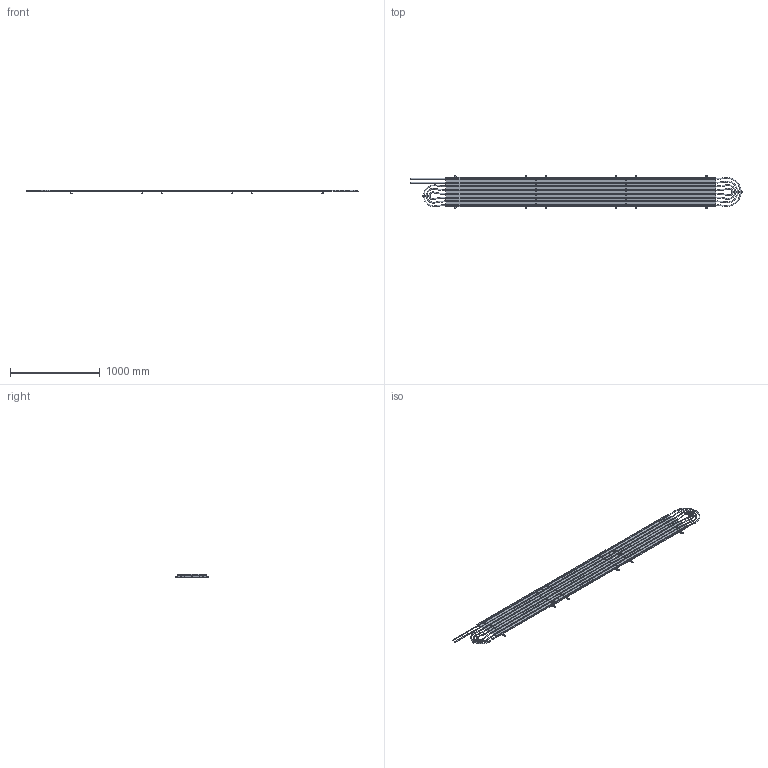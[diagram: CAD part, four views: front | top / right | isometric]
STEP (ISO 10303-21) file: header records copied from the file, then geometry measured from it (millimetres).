
FILE_DESCRIPTION (( 'STEP AP214' ), '1' );
FILE_NAME ('AP 300.STEP', '2021-04-13T07:20:59', ( '' ), ( '' ), 'SwSTEP 2.0', 'SolidWorks 2019', '' );
FILE_SCHEMA (( 'AUTOMOTIVE_DESIGN' ));
Length unit declared in the file: millimetre
Products named in the file (16): F駸獷3; cs饘esb嫕at_3; P003 - Termék; F駸獷4; G54R2_ref_lemez_hf_p_4valyu_500mm__2qqq_334x3000; P003 - Termék_Felhajtott; Fésû; G54R2_ref_lemez_hf_p_4valyu_500mm__2qqq; AP 300; cs饘esb嫕at
Assembly tree (10 placements, depth 2):
  P003 - Termék
  P003 - Termék
  P003 - Termék
  Fésû
  G54R2_ref_lemez_hf_p_4valyu_500mm__2qqq
Bounding box: 3700 x 362 x 37.5 mm (x, y, z)
Volume: 1202655.9 mm3; surface area: 4777102.5 mm2
Topology: 12 solids, 12 shells, 1802 faces, 4870 edges, 3092 vertices
Faces by surface type: cylinder 855, plane 747, torus 140, bspline 60
Entity records: 26050 total; most frequent: CARTESIAN_POINT 5214, DIRECTION 4616, ORIENTED_EDGE 4220, EDGE_CURVE 2110, AXIS2_PLACEMENT_3D 1750, VERTEX_POINT 1332, LINE 1116, VECTOR 1116
